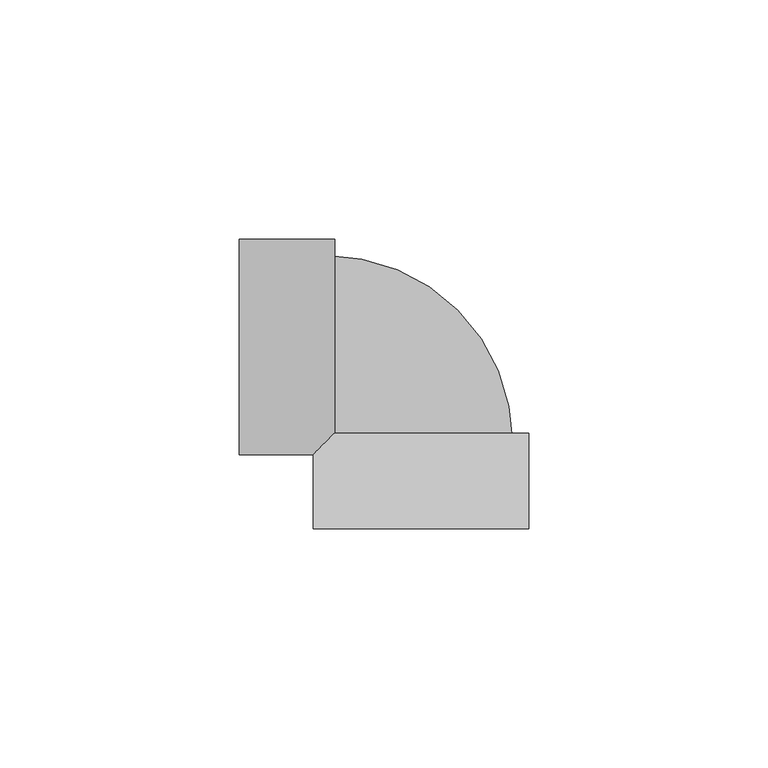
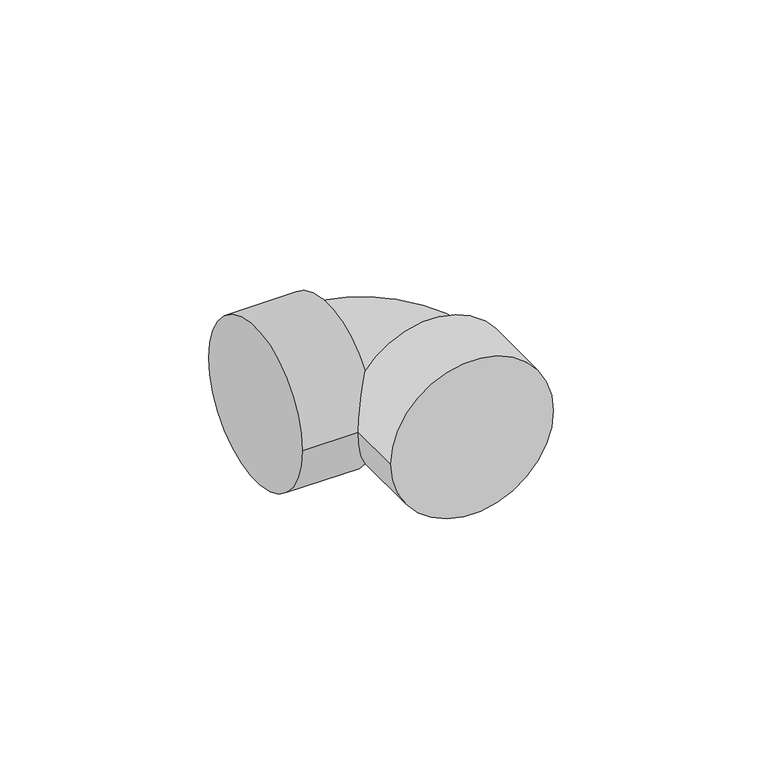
"""IFC4 building model written with IfcOpenShell, lengths in millimetres: pipe fitting geometry, 01011001 : Coudes à 90º."""

from ifc_helpers import new_model, si_unit, point, frame, origin, place, context, project, spatial, circle_curve, ellipse_curve, trimmed, source, transform, mapped, element, save
from ifc_brep_helpers import plane_surface, cylinder_surface, revolved_surface, advanced_brep


def pipe_fitting_7ca30b92(model_context):
    return source(origin(), model_context, "Body", "AdvancedBrep", [
        advanced_brep(
        [(-22.5, -38.0, 0.0), (22.5, -38.0, 0.0), (-18.0, -18.0, -13.5), (-18.0, -18.0, 13.5), (22.5, -18.0, 0.0), (-22.5, -22.5, 0.0), (-38.0, 22.5, 0.0), (-38.0, -22.5, 0.0), (-18.0, 22.5, 0.0)],
        [
            (0, 1, circle_curve(frame((0.0, -38.0, 0.0), z_axis=(0.0, -1.0, 0.0), x_axis=(1.0, 0.0, 0.0)), 22.5)),
            (1, 0, circle_curve(frame((0.0, -38.0, 0.0), z_axis=(0.0, -1.0, 0.0), x_axis=(1.0, 0.0, 0.0)), 22.5)),
            (2, 3),
            (3, 4, circle_curve(frame((0.0, -18.0, 0.0), z_axis=(0.0, 1.0, 0.0), x_axis=(1.0, 0.0, 0.0)), 22.5)),
            (4, 2, circle_curve(frame((0.0, -18.0, 0.0), z_axis=(0.0, 1.0, 0.0), x_axis=(1.0, 0.0, 0.0)), 22.5)),
            (1, 4),
            (3, 5, ellipse_curve(frame((0.0, 0.0, 0.0), z_axis=(0.7071067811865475, -0.7071067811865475, 0.0), x_axis=(-0.7071067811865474, -0.7071067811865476, 0.0)), 31.8198052, 22.5)),
            (5, 0),
            (5, 2, ellipse_curve(frame((0.0, 0.0, 0.0), z_axis=(0.7071067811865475, -0.7071067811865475, 0.0), x_axis=(-0.7071067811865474, -0.7071067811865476, 0.0)), 31.8198052, 22.5)),
            (6, 7, circle_curve(frame((-38.0, 0.0, 0.0), z_axis=(-1.0, 0.0, 0.0), x_axis=(0.0, -1.0, 0.0)), 22.5)),
            (7, 6, circle_curve(frame((-38.0, 0.0, 0.0), z_axis=(-1.0, 0.0, 0.0), x_axis=(0.0, -1.0, 0.0)), 22.5)),
            (8, 3, circle_curve(frame((-18.0, 0.0, 0.0), z_axis=(1.0, 0.0, 0.0), x_axis=(0.0, -1.0, 0.0)), 22.5)),
            (2, 8, circle_curve(frame((-18.0, 0.0, 0.0), z_axis=(1.0, 0.0, 0.0), x_axis=(0.0, -1.0, 0.0)), 22.5)),
            (7, 5),
            (8, 6),
        ],
        [
            plane_surface(frame((0.0, -38.0, 0.0), z_axis=(0.0, -1.0, 0.0), x_axis=(0.0, 0.0, 1.0))),
            plane_surface(frame((0.0, -18.0, 0.0), z_axis=(0.0, 1.0, 0.0), x_axis=(0.0, 0.0, 1.0))),
            cylinder_surface(frame((0.0, -38.0, 0.0), z_axis=(0.0, -1.0, 0.0), x_axis=(1.0, 0.0, 0.0)), 22.5),
            plane_surface(frame((-38.0, 0.0, 0.0), z_axis=(-1.0, 0.0, 0.0), x_axis=(0.0, 0.0, 1.0))),
            plane_surface(frame((-18.0, 0.0, 0.0), z_axis=(1.0, 0.0, 0.0), x_axis=(0.0, 0.0, 1.0))),
            cylinder_surface(frame((-38.0, 0.0, 0.0), z_axis=(-1.0, 0.0, 0.0), x_axis=(0.0, -1.0, 0.0)), 22.5),
        ],
        [
            (0, [[1, 2]]),
            (1, [[3, 4, 5]]),
            (2, [[6, -4, 7, 8, -2]]),
            (2, [[-8, 9, -5, -6, -1]]),
            (3, [[10, 11]]),
            (4, [[12, -3, 13]]),
            (5, [[14, -7, -12, 15, -11]]),
            (5, [[-15, -13, -9, -14, -10]]),
        ],
    ),
        advanced_brep(
        [(-19.125, -20.0, 0.0), (19.125, -20.0, 0.0), (-20.0, -19.125, 0.0), (-20.0, 19.125, 0.0)],
        [
            (0, 1, circle_curve(frame((0.0, -20.0, 0.0), z_axis=(0.0, -1.0, 0.0), x_axis=(1.0, 0.0, 0.0)), 19.125)),
            (1, 0, circle_curve(frame((0.0, -20.0, 0.0), z_axis=(0.0, -1.0, 0.0), x_axis=(1.0, 0.0, 0.0)), 19.125)),
            (2, 3, circle_curve(frame((-20.0, 0.0, 0.0), z_axis=(-1.0, 0.0, 0.0), x_axis=(0.0, 1.0, 0.0)), 19.125)),
            (3, 2, circle_curve(frame((-20.0, 0.0, 0.0), z_axis=(-1.0, 0.0, 0.0), x_axis=(0.0, 1.0, 0.0)), 19.125)),
            (2, 0, circle_curve(frame((-20.0, -20.0, 0.0), z_axis=(0.0, 0.0, -1.0), x_axis=(1.0, 0.0, 0.0)), 0.875)),
            (1, 3, circle_curve(frame((-20.0, -20.0, 0.0), z_axis=(0.0, 0.0, 1.0), x_axis=(1.0, 0.0, 0.0)), 39.125)),
        ],
        [
            plane_surface(frame((0.0, -20.0, 0.0), z_axis=(0.0, -1.0, 0.0), x_axis=(0.0, 0.0, 1.0))),
            plane_surface(frame((-20.0, 0.0, 0.0), z_axis=(-1.0, 0.0, 0.0), x_axis=(0.0, 0.0, 1.0))),
            revolved_surface(trimmed(ellipse_curve(frame((0.0, -20.0, 0.0), z_axis=(0.0, 1.0, 0.0), x_axis=(1.0, 0.0, 0.0)), 19.125, 19.125), [point((-19.125, -20.0, 0.0))], [point((19.125, -20.0, 0.0))], True, "CARTESIAN"), (-20.0, -20.0, 0.0), (0.0, 0.0, -1.0)),
            revolved_surface(trimmed(ellipse_curve(frame((0.0, -20.0, 0.0), z_axis=(0.0, 1.0, 0.0), x_axis=(1.0, 0.0, 0.0)), 19.125, 19.125), [point((19.125, -20.0, 0.0))], [point((-19.125, -20.0, 0.0))], True, "CARTESIAN"), (-20.0, -20.0, 0.0), (0.0, 0.0, -1.0)),
        ],
        [
            (0, [[1, 2]]),
            (1, [[3, 4]]),
            (2, [[-3, 5, -2, 6]]),
            (3, [[-4, -6, -1, -5]]),
        ],
    ),
    ])


if __name__ == "__main__":
    model = new_model("IFC4")
    model_context = context("Model", 3, world=origin())
    ifc_project = project(units=[si_unit("LENGTHUNIT", "METRE", prefix="MILLI")], contexts=[model_context])
    site = spatial("IfcSite", under=ifc_project)
    building = spatial("IfcBuilding", under=site)
    placement = place(None, origin())
    pipe_fitting_shape = pipe_fitting_7ca30b92(model_context)
    element("IfcPipeFitting", 1, ObjectType="01011001 : Coudes à 90º", at=placement, inside=building, context=model_context, shape_type="MappedRepresentation", body=[
        mapped(pipe_fitting_shape, transform((0.0, 0.0, 0.0), x_axis=(1.0, 0.0, 0.0), y_axis=(0.0, 1.0, 0.0), z_axis=(0.0, 0.0, 1.0))),
    ])
    save(model, "model.ifc")
